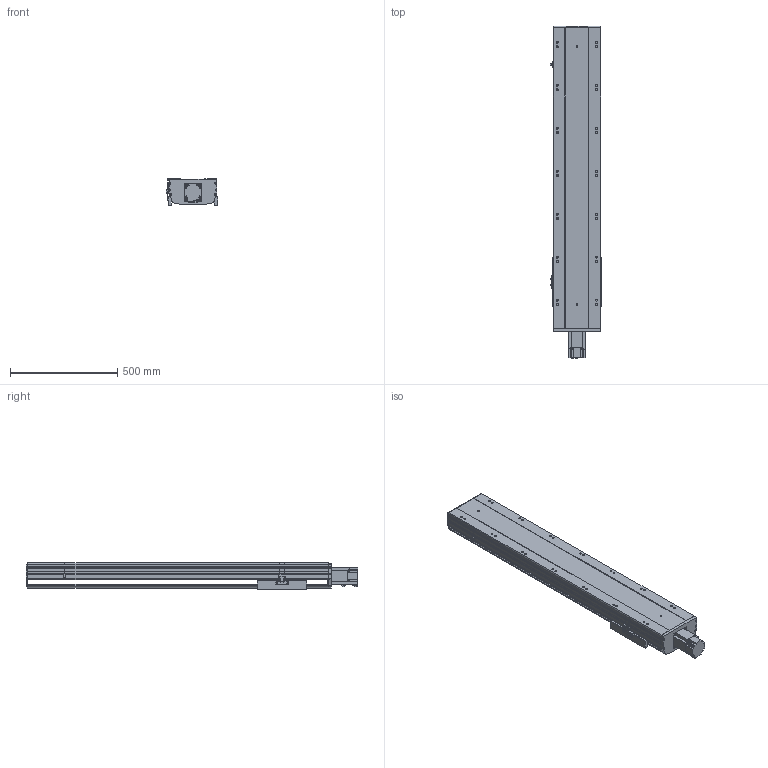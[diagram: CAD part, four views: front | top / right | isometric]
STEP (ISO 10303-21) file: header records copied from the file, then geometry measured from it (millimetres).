
FILE_DESCRIPTION (( 'STEP AP203' ), '1' );
FILE_NAME ('20.STEP', '2020-11-23T01:54:56', ( '' ), ( '' ), 'SwSTEP 2.0', 'SolidWorks 2016', '' );
FILE_SCHEMA (( 'CONFIG_CONTROL_DESIGN' ));
Length unit declared in the file: millimetre
Products named in the file (7): BTH22-BC-菁釱; BTH22-BC-02; BTH22-BC-T75; BTH22-BC-01; BTH22-BC-04; 20; BTH22-BC-HZ
Assembly tree (8 placements, depth 2):
  20
    BTH22-BC-菁釱
    BTH22-BC-01
    BTH22-BC-02
    BTH22-BC-04  x3
    BTH22-BC-HZ
    BTH22-BC-T75
Bounding box: 238.7 x 1544.3 x 122.7 mm (x, y, z)
Volume: 18431623.2 mm3; surface area: 2243884.2 mm2
Topology: 10 solids, 10 shells, 973 faces, 2756 edges, 1805 vertices
Faces by surface type: plane 529, cylinder 406, cone 38
Entity records: 29083 total; most frequent: CARTESIAN_POINT 5745, ORIENTED_EDGE 4756, DIRECTION 4736, EDGE_CURVE 2378, AXIS2_PLACEMENT_3D 1604, VERTEX_POINT 1573, VECTOR 1528, LINE 1528
